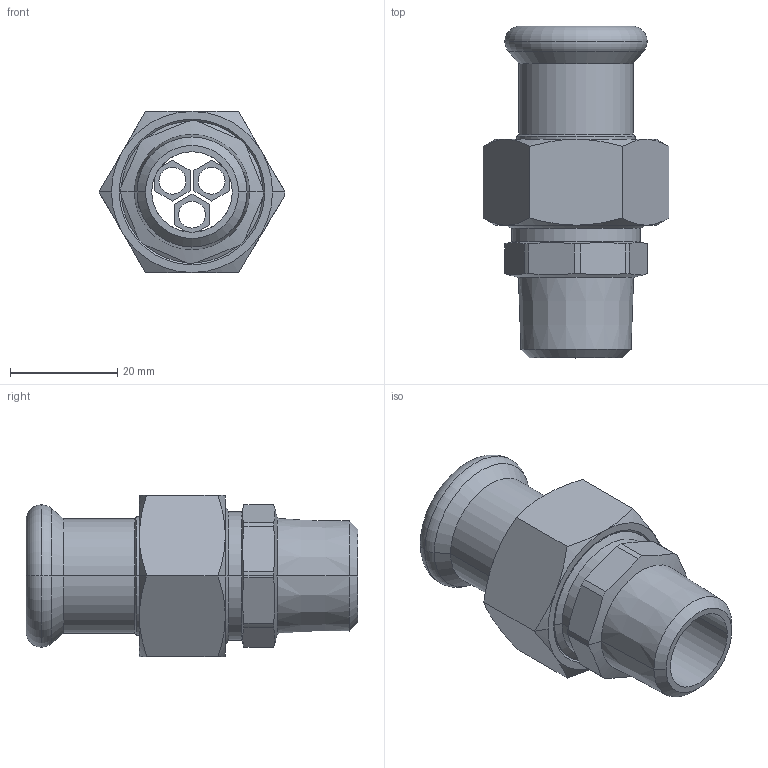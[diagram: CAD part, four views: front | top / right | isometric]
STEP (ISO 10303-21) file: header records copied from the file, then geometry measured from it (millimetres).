
FILE_DESCRIPTION(('OneSpaceDesigner STEP Export'),'2;1');
FILE_NAME('R2735 18xRp1-2.stp','2010-06-10T13:44:26',(''),(''),'OneSpace Designer STEP processor for AP214 (Solid Model)','OneSpace Modeling 15.00A 14-Mar-2007 (C) CoCreate Software GmbH','');
FILE_SCHEMA(('AUTOMOTIVE_DESIGN { 1 0 10303 214 1 1 1 1 }'));
Length unit declared in the file: millimetre
Products named in the file (2): R2735_18xRp1-2
Assembly tree (1 placements, depth 2):
  R2735_18xRp1-2
    R2735_18xRp1-2
Bounding box: 34.64 x 61.8 x 30 mm (x, y, z)
Volume: 17006.6 mm3; surface area: 11178.3 mm2
Topology: 1 solids, 1 shells, 147 faces, 354 edges, 214 vertices
Faces by surface type: plane 48, cone 47, cylinder 44, torus 8
Entity records: 5344 total; most frequent: CARTESIAN_POINT 2330, ORIENTED_EDGE 708, DIRECTION 488, EDGE_CURVE 354, VERTEX_POINT 214, VECTOR 164, LINE 164, AXIS2_PLACEMENT_3D 162
